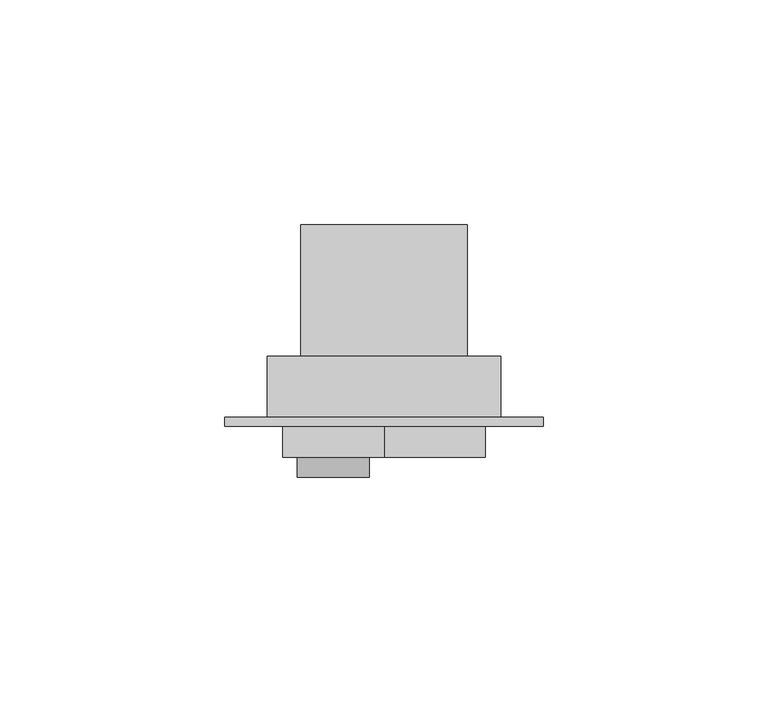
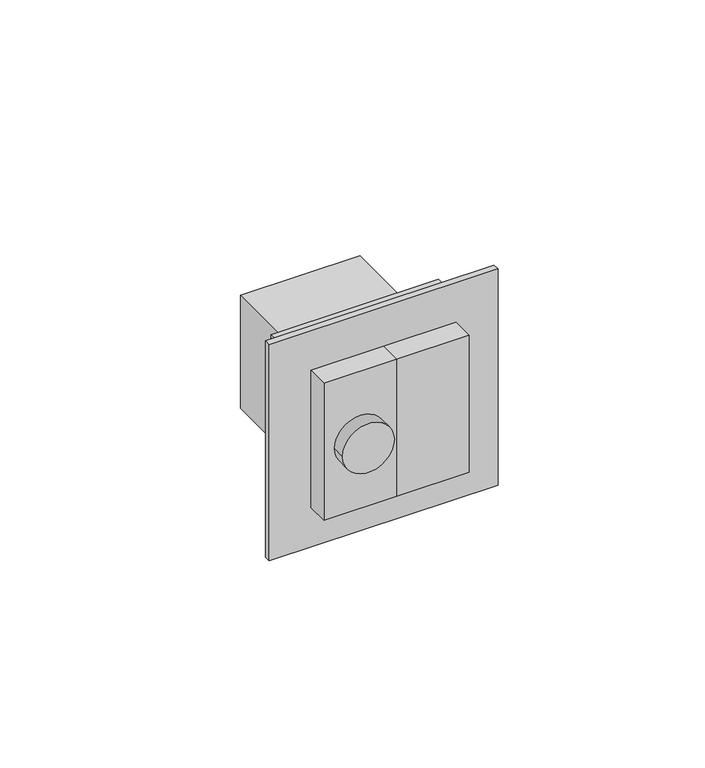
"""IFC4 building model written with IfcOpenShell, lengths in millimetres: proxy geometry."""

from ifc_helpers import new_model, si_unit, point, frame, frame_2d, origin, place, context, project, spatial, polyline, circle_curve, trimmed, segment, composite_curve, outline, extrude, faceted_brep, source, transform, mapped, element, save


def electrical_fixtures_0ded3fe8(model_context):
    return source(origin(), model_context, "Body", "SolidModel", [
        extrude(outline(composite_curve([segment(trimmed(circle_curve(frame_2d((0.0, -11.25)), 8.0), [point((0.0, -19.25))], [point((0.0, -3.25))], False, "CARTESIAN"), True, "CONTINUOUS"), segment(trimmed(circle_curve(frame_2d((0.0, -11.25)), 8.0), [point((0.0, -3.25))], [point((0.0, -19.25))], False, "CARTESIAN"), True, "CONTINUOUS")], self_intersect=False)), frame((0.0, -48.1, 0.0), z_axis=(0.0, 1.0, 0.0), x_axis=(0.0, 0.0, 1.0)), (0.0, 0.0, 1.0), 4.4),
        extrude(outline(polyline([(0.0, -36.7), (0.0, -43.7), (-22.5, -43.7), (-22.5, -36.7), (0.0, -36.7)])), frame((0.0, 0.0, -22.5), z_axis=(0.0, 0.0, 1.0), x_axis=(1.0, 0.0, 0.0)), (0.0, 0.0, 1.0), 45.0),
        extrude(outline(polyline([(22.5, -36.7), (22.5, -43.7), (0.0, -43.7), (0.0, -36.7), (22.5, -36.7)])), frame((0.0, 0.0, -22.5), z_axis=(0.0, 0.0, 1.0), x_axis=(1.0, 0.0, 0.0)), (0.0, 0.0, 1.0), 45.0),
        faceted_brep([(35.45, -34.7, -35.45), (-35.45, -34.7, -35.45), (-35.45, -34.7, 35.45), (35.45, -34.7, 35.45), (-26.0, -34.7, -26.0), (26.0, -34.7, -26.0), (26.0, -34.7, 26.0), (-26.0, -34.7, 26.0), (35.45, -36.7, -35.45), (35.45, -36.7, 35.45), (-35.45, -36.7, 35.45), (-35.45, -36.7, -35.45), (26.0, -21.2, -26.0), (-26.0, -21.2, -26.0), (-26.0, -21.2, 26.0), (26.0, -21.2, 26.0), (-18.5, -21.2, -18.5), (18.5, -21.2, -18.5), (18.5, -21.2, 18.5), (-18.5, -21.2, 18.5), (18.5, 8.1, -18.5), (-18.5, 8.1, -18.5), (-18.5, 8.1, 18.5), (18.5, 8.1, 18.5)], [[[0, 1, 2, 3], [4, 5, 6, 7]], [[8, 9, 10, 11]], [[1, 0, 8, 11]], [[2, 1, 11, 10]], [[3, 2, 10, 9]], [[0, 3, 9, 8]], [[12, 13, 14, 15], [16, 17, 18, 19]], [[13, 12, 5, 4]], [[14, 13, 4, 7]], [[15, 14, 7, 6]], [[12, 15, 6, 5]], [[20, 21, 22, 23]], [[21, 20, 17, 16]], [[22, 21, 16, 19]], [[23, 22, 19, 18]], [[20, 23, 18, 17]]]),
    ])


if __name__ == "__main__":
    model = new_model("IFC4")
    model_context = context("Model", 3, world=origin())
    ifc_project = project(units=[si_unit("LENGTHUNIT", "METRE", prefix="MILLI")], contexts=[model_context])
    site = spatial("IfcSite", under=ifc_project)
    building = spatial("IfcBuilding", under=site)
    placement = place(None, origin())
    electrical_fixtures_shape = electrical_fixtures_0ded3fe8(model_context)
    element("IfcBuildingElementProxy", 1, Name="Electrical Fixtures", at=placement, inside=building, context=model_context, shape_type="MappedRepresentation", body=[
        mapped(electrical_fixtures_shape, transform((0.0, 0.0, 0.0), x_axis=(1.0, 0.0, 0.0), y_axis=(0.0, 1.0, 0.0), z_axis=(0.0, 0.0, 1.0))),
    ])
    save(model, "model.ifc")
